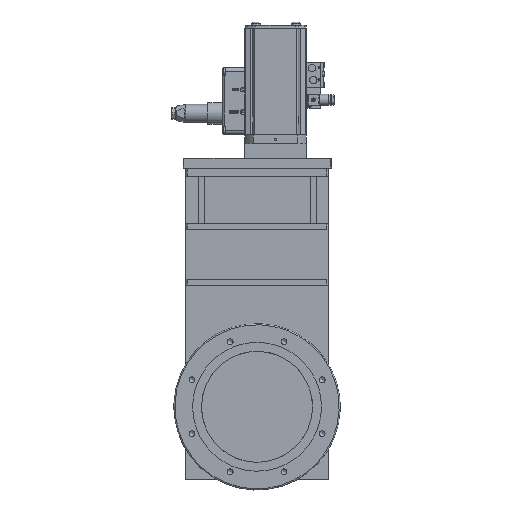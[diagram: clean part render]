
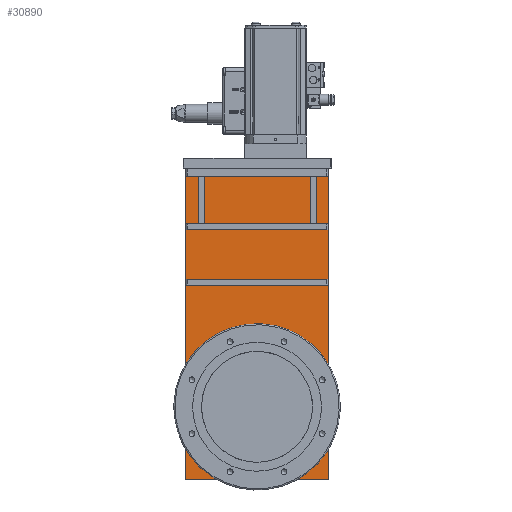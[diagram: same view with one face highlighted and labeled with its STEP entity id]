
A CAD part, top view. The second image highlights one B-rep face of the part: STEP entity #30890.
In plain terms, the highlighted planar face has unit normal (0, 0, 1).
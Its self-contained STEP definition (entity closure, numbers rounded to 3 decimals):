
#13462=LINE('',#111996,#17622);
#13464=LINE('',#112000,#17624);
#13466=LINE('',#112004,#17626);
#13468=LINE('',#112008,#17628);
#17622=VECTOR('',#81554,1.);
#17624=VECTOR('',#81558,1.);
#17626=VECTOR('',#81562,1.);
#17628=VECTOR('',#81566,1.);
#25809=PLANE('',#69253);
#30890=ADVANCED_FACE('',(#33176,#33177),#25809,.F.);
#33176=FACE_BOUND('',#36805,.T.);
#33177=FACE_BOUND('',#36806,.T.);
#36805=EDGE_LOOP('',(#50220));
#36806=EDGE_LOOP('',(#50221,#50222,#50223,#50224));
#50220=ORIENTED_EDGE('',*,*,#63031,.T.);
#50221=ORIENTED_EDGE('',*,*,#63024,.F.);
#50222=ORIENTED_EDGE('',*,*,#63022,.T.);
#50223=ORIENTED_EDGE('',*,*,#63028,.F.);
#50224=ORIENTED_EDGE('',*,*,#63026,.F.);
#56062=VERTEX_POINT('',#111995);
#56063=VERTEX_POINT('',#111997);
#56064=VERTEX_POINT('',#112001);
#56065=VERTEX_POINT('',#112005);
#56068=VERTEX_POINT('',#112016);
#63022=EDGE_CURVE('',#56063,#56062,#13462,.T.);
#63024=EDGE_CURVE('',#56063,#56064,#13464,.T.);
#63026=EDGE_CURVE('',#56064,#56065,#13466,.T.);
#63028=EDGE_CURVE('',#56065,#56062,#13468,.T.);
#63031=EDGE_CURVE('',#56068,#56068,#65129,.T.);
#65129=CIRCLE('',#69252,75.3);
#69252=AXIS2_PLACEMENT_3D('',#112015,#81575,#81576);
#69253=AXIS2_PLACEMENT_3D('',#112017,#81577,#81578);
#81554=DIRECTION('',(0.,1.,0.));
#81558=DIRECTION('',(-1.,0.,0.));
#81562=DIRECTION('',(0.,1.,0.));
#81566=DIRECTION('',(1.,0.,0.));
#81575=DIRECTION('',(0.,0.,-1.));
#81576=DIRECTION('',(0.,1.,0.));
#81577=DIRECTION('',(0.,0.,-1.));
#81578=DIRECTION('',(0.,1.,0.));
#111995=CARTESIAN_POINT('',(322.3,96.225,27.));
#111996=CARTESIAN_POINT('',(322.3,0.,27.));
#111997=CARTESIAN_POINT('',(322.3,-96.225,27.));
#112000=CARTESIAN_POINT('',(323.6,-96.225,27.));
#112001=CARTESIAN_POINT('',(-98.55,-96.225,27.));
#112004=CARTESIAN_POINT('',(-98.55,-96.225,27.));
#112005=CARTESIAN_POINT('',(-98.55,96.225,27.));
#112008=CARTESIAN_POINT('',(-98.55,96.225,27.));
#112015=CARTESIAN_POINT('',(0.,0.,
27.));
#112016=CARTESIAN_POINT('',(0.,75.3,27.));
#112017=CARTESIAN_POINT('',(0.,0.,
27.));
